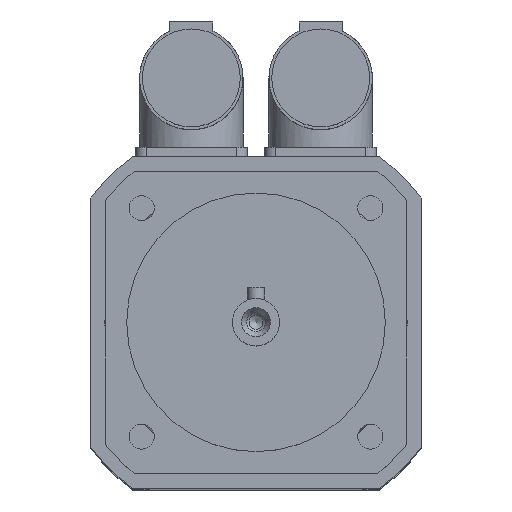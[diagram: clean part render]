
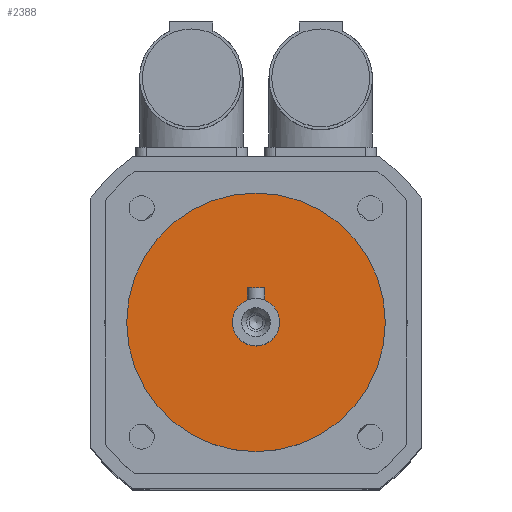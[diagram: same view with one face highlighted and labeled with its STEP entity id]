
A CAD part, top view. The second image highlights one B-rep face of the part: STEP entity #2388.
In plain terms, the highlighted planar face has unit normal (0, 0, 1).
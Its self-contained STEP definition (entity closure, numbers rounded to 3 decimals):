
#484=PLANE('',#2572);
#601=FACE_BOUND('',#819,.T.);
#665=FACE_OUTER_BOUND('',#818,.T.);
#818=EDGE_LOOP('',(#1867));
#819=EDGE_LOOP('',(#1868));
#965=CIRCLE('',#2571,5.5);
#966=CIRCLE('',#2573,30.);
#1130=VERTEX_POINT('',#3794);
#1131=VERTEX_POINT('',#3797);
#1405=EDGE_CURVE('',#1130,#1130,#965,.T.);
#1406=EDGE_CURVE('',#1131,#1131,#966,.T.);
#1867=ORIENTED_EDGE('',*,*,#1406,.F.);
#1868=ORIENTED_EDGE('',*,*,#1405,.T.);
#2388=ADVANCED_FACE('',(#665,#601),#484,.T.);
#2571=AXIS2_PLACEMENT_3D('',#3795,#2996,#2997);
#2572=AXIS2_PLACEMENT_3D('',#3796,#2998,#2999);
#2573=AXIS2_PLACEMENT_3D('',#3798,#3000,#3001);
#2996=DIRECTION('center_axis',(0.,0.,-1.));
#2997=DIRECTION('ref_axis',(1.,0.,0.));
#2998=DIRECTION('center_axis',(0.,0.,1.));
#2999=DIRECTION('ref_axis',(1.,0.,0.));
#3000=DIRECTION('center_axis',(0.,0.,-1.));
#3001=DIRECTION('ref_axis',(1.,0.,0.));
#3794=CARTESIAN_POINT('',(0.,5.5,208.));
#3795=CARTESIAN_POINT('Origin',(0.,0.,208.));
#3796=CARTESIAN_POINT('Origin',(0.,30.,208.));
#3797=CARTESIAN_POINT('',(0.,30.,208.));
#3798=CARTESIAN_POINT('Origin',(0.,0.,208.));
